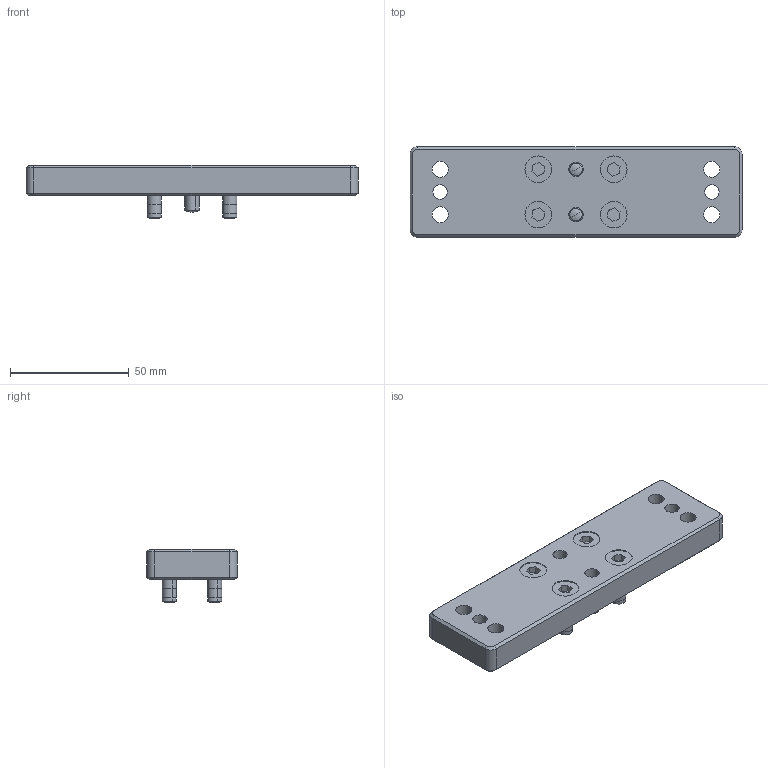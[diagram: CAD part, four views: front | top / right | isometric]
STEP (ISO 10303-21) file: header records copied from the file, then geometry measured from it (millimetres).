
FILE_DESCRIPTION (( 'STEP AP214' ), '1' );
FILE_NAME ('ATI-9005-50-6091.STEP', '2020-10-28T02:25:16', ( '' ), ( '' ), 'SwSTEP 2.0', 'SolidWorks 2020', '' );
FILE_SCHEMA (( 'AUTOMOTIVE_DESIGN' ));
Length unit declared in the file: inch
Products named in the file (1): ATI-9005-50-6091
Bounding box: 139.7 x 38.1 x 22.38 mm (x, y, z)
Volume: 63644.7 mm3; surface area: 17694.8 mm2
Topology: 1 solids, 1 shells, 154 faces, 352 edges, 228 vertices
Faces by surface type: cylinder 64, plane 62, cone 20, sphere 8
Entity records: 4448 total; most frequent: DIRECTION 830, CARTESIAN_POINT 735, ORIENTED_EDGE 704, EDGE_CURVE 352, AXIS2_PLACEMENT_3D 323, VERTEX_POINT 228, EDGE_LOOP 194, VECTOR 184
